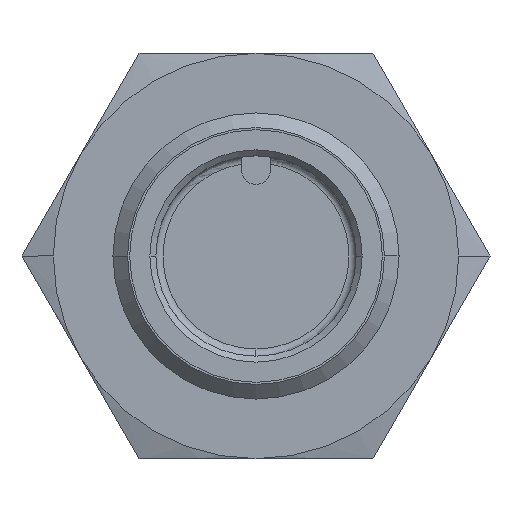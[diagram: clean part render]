
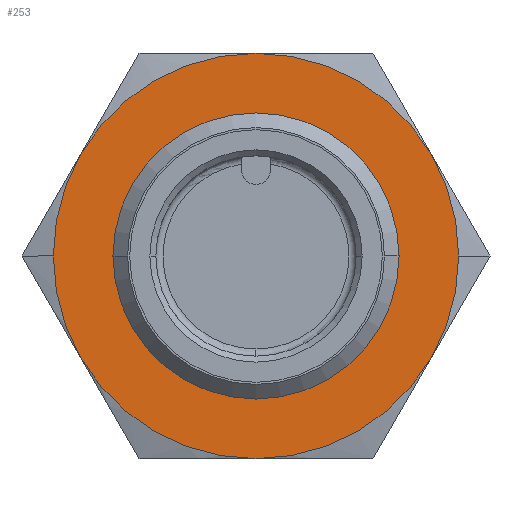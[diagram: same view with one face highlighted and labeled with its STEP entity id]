
A CAD part, left-side view. The second image highlights one B-rep face of the part: STEP entity #253.
In plain terms, the highlighted planar face has unit normal (-1, 0, 0).
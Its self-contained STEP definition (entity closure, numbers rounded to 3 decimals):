
#253 = ADVANCED_FACE( '', ( #456, #457 ), #458, .T. );
#456 = FACE_BOUND( '', #694, .T. );
#457 = FACE_OUTER_BOUND( '', #695, .T. );
#458 = PLANE( '', #696 );
#694 = EDGE_LOOP( '', ( #1358, #1359 ) );
#695 = EDGE_LOOP( '', ( #1360, #1361, #1362, #1363, #1364, #1365, #1366, #1367 ) );
#696 = AXIS2_PLACEMENT_3D( '', #1368, #1369, #1370 );
#1358 = ORIENTED_EDGE( '', *, *, #1744, .T. );
#1359 = ORIENTED_EDGE( '', *, *, #1745, .T. );
#1360 = ORIENTED_EDGE( '', *, *, #1785, .F. );
#1361 = ORIENTED_EDGE( '', *, *, #1786, .F. );
#1362 = ORIENTED_EDGE( '', *, *, #1781, .F. );
#1363 = ORIENTED_EDGE( '', *, *, #1782, .F. );
#1364 = ORIENTED_EDGE( '', *, *, #1728, .F. );
#1365 = ORIENTED_EDGE( '', *, *, #1783, .F. );
#1366 = ORIENTED_EDGE( '', *, *, #1784, .F. );
#1367 = ORIENTED_EDGE( '', *, *, #1724, .F. );
#1368 = CARTESIAN_POINT( '', ( 30., -4.25, 0. ) );
#1369 = DIRECTION( '', ( -1., 0., 0. ) );
#1370 = DIRECTION( '', ( 0., 1., 0. ) );
#1724 = EDGE_CURVE( '', #2047, #2050, #2051, .T. );
#1728 = EDGE_CURVE( '', #2056, #2054, #2058, .T. );
#1744 = EDGE_CURVE( '', #2084, #2086, #2088, .T. );
#1745 = EDGE_CURVE( '', #2086, #2084, #2089, .T. );
#1781 = EDGE_CURVE( '', #2096, #2115, #2141, .T. );
#1782 = EDGE_CURVE( '', #2054, #2096, #2142, .T. );
#1783 = EDGE_CURVE( '', #2128, #2056, #2143, .T. );
#1784 = EDGE_CURVE( '', #2050, #2128, #2144, .T. );
#1785 = EDGE_CURVE( '', #2108, #2047, #2145, .T. );
#1786 = EDGE_CURVE( '', #2115, #2108, #2146, .T. );
#2047 = VERTEX_POINT( '', #2659 );
#2050 = VERTEX_POINT( '', #2663 );
#2051 = CIRCLE( '', #2664, 8.5 );
#2054 = VERTEX_POINT( '', #2676 );
#2056 = VERTEX_POINT( '', #2679 );
#2058 = CIRCLE( '', #2690, 8.5 );
#2084 = VERTEX_POINT( '', #2740 );
#2086 = VERTEX_POINT( '', #2743 );
#2088 = CIRCLE( '', #2746, 6. );
#2089 = CIRCLE( '', #2747, 6. );
#2096 = VERTEX_POINT( '', #2764 );
#2108 = VERTEX_POINT( '', #2814 );
#2115 = VERTEX_POINT( '', #2858 );
#2128 = VERTEX_POINT( '', #2935 );
#2141 = CIRCLE( '', #2985, 8.5 );
#2142 = CIRCLE( '', #2986, 8.5 );
#2143 = CIRCLE( '', #2987, 8.5 );
#2144 = CIRCLE( '', #2988, 8.5 );
#2145 = CIRCLE( '', #2989, 8.5 );
#2146 = CIRCLE( '', #2990, 8.5 );
#2659 = CARTESIAN_POINT( '', ( 30., -8.5, 0. ) );
#2663 = CARTESIAN_POINT( '', ( 30., -7.361, -4.25 ) );
#2664 = AXIS2_PLACEMENT_3D( '', #3573, #3574, #3575 );
#2676 = CARTESIAN_POINT( '', ( 30., 8.5, 0. ) );
#2679 = CARTESIAN_POINT( '', ( 30., 7.361, -4.25 ) );
#2690 = AXIS2_PLACEMENT_3D( '', #3577, #3578, #3579 );
#2740 = CARTESIAN_POINT( '', ( 30., -6., 0. ) );
#2743 = CARTESIAN_POINT( '', ( 30., 6., 0. ) );
#2746 = AXIS2_PLACEMENT_3D( '', #3603, #3604, #3605 );
#2747 = AXIS2_PLACEMENT_3D( '', #3606, #3607, #3608 );
#2764 = CARTESIAN_POINT( '', ( 30., 7.361, 4.25 ) );
#2814 = CARTESIAN_POINT( '', ( 30., -7.361, 4.25 ) );
#2858 = CARTESIAN_POINT( '', ( 30., 0., 8.5 ) );
#2935 = CARTESIAN_POINT( '', ( 30., 0., -8.5 ) );
#2985 = AXIS2_PLACEMENT_3D( '', #3642, #3643, #3644 );
#2986 = AXIS2_PLACEMENT_3D( '', #3645, #3646, #3647 );
#2987 = AXIS2_PLACEMENT_3D( '', #3648, #3649, #3650 );
#2988 = AXIS2_PLACEMENT_3D( '', #3651, #3652, #3653 );
#2989 = AXIS2_PLACEMENT_3D( '', #3654, #3655, #3656 );
#2990 = AXIS2_PLACEMENT_3D( '', #3657, #3658, #3659 );
#3573 = CARTESIAN_POINT( '', ( 30., 0., 0. ) );
#3574 = DIRECTION( '', ( 1., 0., 0. ) );
#3575 = DIRECTION( '', ( 0., -1., 0. ) );
#3577 = CARTESIAN_POINT( '', ( 30., 0., 0. ) );
#3578 = DIRECTION( '', ( 1., 0., 0. ) );
#3579 = DIRECTION( '', ( 0., -1., 0. ) );
#3603 = CARTESIAN_POINT( '', ( 30., 0., 0. ) );
#3604 = DIRECTION( '', ( 1., 0., 0. ) );
#3605 = DIRECTION( '', ( 0., -1., 0. ) );
#3606 = CARTESIAN_POINT( '', ( 30., 0., 0. ) );
#3607 = DIRECTION( '', ( 1., 0., 0. ) );
#3608 = DIRECTION( '', ( 0., -1., 0. ) );
#3642 = CARTESIAN_POINT( '', ( 30., 0., 0. ) );
#3643 = DIRECTION( '', ( 1., 0., 0. ) );
#3644 = DIRECTION( '', ( 0., -1., 0. ) );
#3645 = CARTESIAN_POINT( '', ( 30., 0., 0. ) );
#3646 = DIRECTION( '', ( 1., 0., 0. ) );
#3647 = DIRECTION( '', ( 0., -1., 0. ) );
#3648 = CARTESIAN_POINT( '', ( 30., 0., 0. ) );
#3649 = DIRECTION( '', ( 1., 0., 0. ) );
#3650 = DIRECTION( '', ( 0., -1., 0. ) );
#3651 = CARTESIAN_POINT( '', ( 30., 0., 0. ) );
#3652 = DIRECTION( '', ( 1., 0., 0. ) );
#3653 = DIRECTION( '', ( 0., -1., 0. ) );
#3654 = CARTESIAN_POINT( '', ( 30., 0., 0. ) );
#3655 = DIRECTION( '', ( 1., 0., 0. ) );
#3656 = DIRECTION( '', ( 0., -1., 0. ) );
#3657 = CARTESIAN_POINT( '', ( 30., 0., 0. ) );
#3658 = DIRECTION( '', ( 1., 0., 0. ) );
#3659 = DIRECTION( '', ( 0., -1., 0. ) );
